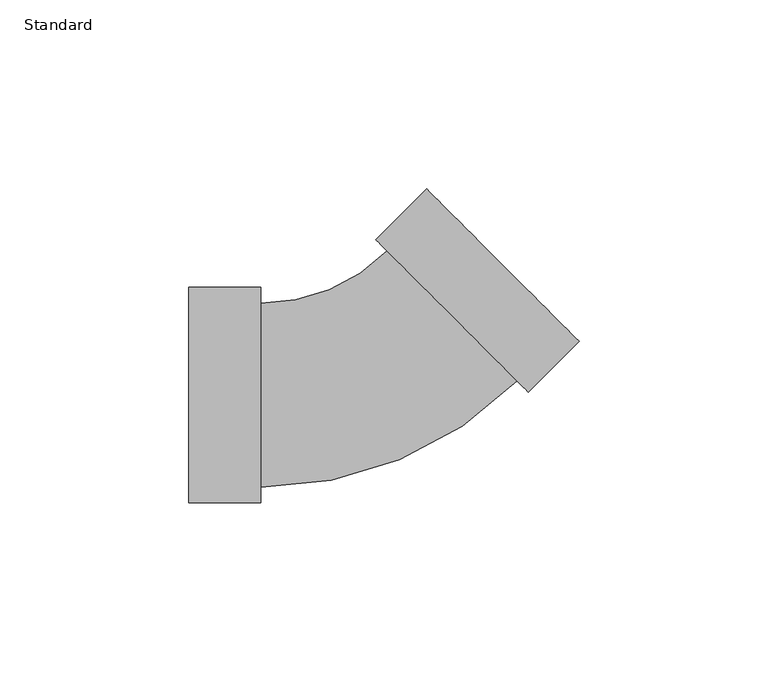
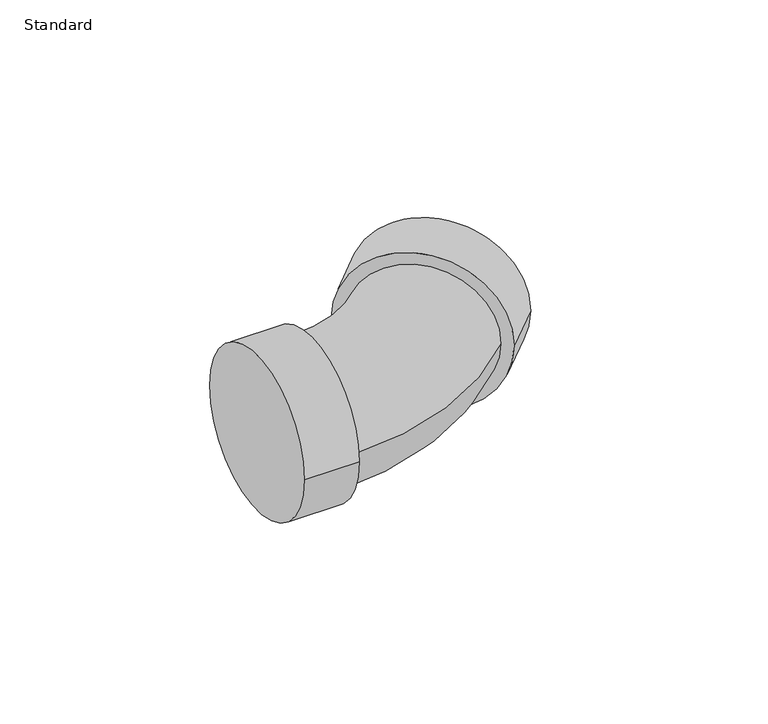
"""IFC4 building model written with IfcOpenShell, lengths in millimetres: pipe fitting geometry, Elbow_45_90-Lubrizol-CPVC-FlowGuard_MX : Standard."""

from ifc_helpers import new_model, si_unit, point, frame, origin, place, context, project, spatial, circle_curve, ellipse_curve, trimmed, source, transform, mapped, element, save
from ifc_brep_helpers import plane_surface, cylinder_surface, revolved_surface, advanced_brep


def standard_5be4a8bd(model_context):
    return source(origin(), model_context, "Body", "AdvancedBrep", [
        advanced_brep(
        [(-48.6521875, -28.5071094, 0.0), (-48.6521875, 28.5071094, 0.0), (-29.6521875, -28.5071094, 0.0), (-29.6521875, 28.5071094, 0.0), (-29.6521875, -24.3240625, 0.0), (-29.6521875, 24.3240625, 0.0), (3.7675533, 38.1669724, 0.0), (38.1669724, 3.7675533, 0.0), (41.1248332, 0.8096925, 0.0), (0.8096925, 41.1248332, 0.0), (54.5598621, 14.2447213, 0.0), (14.2447213, 54.5598621, 0.0)],
        [
            (0, 1, circle_curve(frame((-48.6521875, 0.0, 0.0), z_axis=(-1.0, 0.0, 0.0), x_axis=(0.0, 1.0, 0.0)), 28.5071094)),
            (1, 0, circle_curve(frame((-48.6521875, 0.0, 0.0), z_axis=(-1.0, 0.0, 0.0), x_axis=(0.0, 1.0, 0.0)), 28.5071094)),
            (2, 3, circle_curve(frame((-29.6521875, 0.0, 0.0), z_axis=(1.0, 0.0, 0.0), x_axis=(0.0, 1.0, 0.0)), 28.5071094)),
            (3, 2, circle_curve(frame((-29.6521875, 0.0, 0.0), z_axis=(1.0, 0.0, 0.0), x_axis=(0.0, 1.0, 0.0)), 28.5071094)),
            (4, 5, circle_curve(frame((-29.6521875, 0.0, 0.0), z_axis=(-1.0, 0.0, 0.0), x_axis=(0.0, 1.0, 0.0)), 24.3240625)),
            (5, 4, circle_curve(frame((-29.6521875, 0.0, 0.0), z_axis=(-1.0, 0.0, 0.0), x_axis=(0.0, 1.0, 0.0)), 24.3240625)),
            (0, 2),
            (3, 1),
            (6, 5, circle_curve(frame((-29.6521875, 71.5867132, 0.0), z_axis=(0.0, 0.0, -1.0), x_axis=(0.0, -1.0, 0.0)), 47.2626507)),
            (4, 7, circle_curve(frame((-29.6521875, 71.5867132, 0.0), z_axis=(0.0, 0.0, 1.0), x_axis=(0.0, -1.0, 0.0)), 95.9107757)),
            (7, 6, circle_curve(frame((20.9672629, 20.9672629, 0.0), z_axis=(-0.7071067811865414, -0.7071067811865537, 0.0), x_axis=(-0.7071067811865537, 0.7071067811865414, 0.0)), 24.3240625)),
            (6, 7, circle_curve(frame((20.9672629, 20.9672629, 0.0), z_axis=(-0.7071067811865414, -0.7071067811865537, 0.0), x_axis=(-0.7071067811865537, 0.7071067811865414, 0.0)), 24.3240625)),
            (8, 9, circle_curve(frame((20.9672629, 20.9672629, 0.0), z_axis=(-0.7071067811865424, -0.7071067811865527, 0.0), x_axis=(-0.7071067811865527, 0.7071067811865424, 0.0)), 28.5071094)),
            (9, 8, circle_curve(frame((20.9672629, 20.9672629, 0.0), z_axis=(-0.7071067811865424, -0.7071067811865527, 0.0), x_axis=(-0.7071067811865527, 0.7071067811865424, 0.0)), 28.5071094)),
            (10, 11, circle_curve(frame((34.4022917, 34.4022917, 0.0), z_axis=(0.7071067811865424, 0.7071067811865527, 0.0), x_axis=(-0.7071067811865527, 0.7071067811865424, 0.0)), 28.5071094)),
            (11, 10, circle_curve(frame((34.4022917, 34.4022917, 0.0), z_axis=(0.7071067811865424, 0.7071067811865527, 0.0), x_axis=(-0.7071067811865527, 0.7071067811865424, 0.0)), 28.5071094)),
            (8, 10),
            (11, 9),
        ],
        [
            plane_surface(frame((-48.6521875, 0.0, 0.0), z_axis=(-1.0, 0.0, 0.0), x_axis=(0.0, 0.0, 1.0))),
            plane_surface(frame((-29.6521875, 0.0, 0.0), z_axis=(1.0, 0.0, 0.0), x_axis=(0.0, 0.0, 1.0))),
            cylinder_surface(frame((-48.6521875, 0.0, 0.0), z_axis=(-1.0, 0.0, 0.0), x_axis=(0.0, 1.0, 0.0)), 28.5071094),
            revolved_surface(trimmed(ellipse_curve(frame((-29.6521875, 0.0, 0.0), z_axis=(-1.0, 0.0, 0.0), x_axis=(0.0, 1.0, 0.0)), 24.3240625, 24.3240625), [point((-29.6521875, -24.3240625, 0.0))], [point((-29.6521875, 24.3240625, 0.0))], True, "CARTESIAN"), (-29.6521875, 71.5867132, 0.0), (0.0, 0.0, 1.0)),
            revolved_surface(trimmed(ellipse_curve(frame((-29.6521875, 0.0, 0.0), z_axis=(-1.0, 0.0, 0.0), x_axis=(0.0, 1.0, 0.0)), 24.3240625, 24.3240625), [point((-29.6521875, 24.3240625, 0.0))], [point((-29.6521875, -24.3240625, 0.0))], True, "CARTESIAN"), (-29.6521875, 71.5867132, 0.0), (0.0, 0.0, 1.0)),
            plane_surface(frame((20.9672629, 20.9672629, 0.0), z_axis=(-0.7071067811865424, -0.7071067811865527, 0.0), x_axis=(0.0, 0.0, 1.0))),
            plane_surface(frame((34.4022917, 34.4022917, 0.0), z_axis=(0.7071067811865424, 0.7071067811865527, 0.0), x_axis=(0.0, 0.0, 1.0))),
            cylinder_surface(frame((20.9672629, 20.9672629, 0.0), z_axis=(-0.7071067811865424, -0.7071067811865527, 0.0), x_axis=(-0.7071067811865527, 0.7071067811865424, 0.0)), 28.5071094),
        ],
        [
            (0, [[1, 2]]),
            (1, [[3, 4], [5, 6]]),
            (2, [[-1, 7, -4, 8]]),
            (2, [[-2, -8, -3, -7]]),
            (3, [[9, -5, 10, 11]]),
            (4, [[-9, 12, -10, -6]]),
            (5, [[13, 14], [-11, -12]]),
            (6, [[15, 16]]),
            (7, [[-13, 17, -16, 18]]),
            (7, [[-14, -18, -15, -17]]),
        ],
    ),
    ])


if __name__ == "__main__":
    model = new_model("IFC4")
    model_context = context("Model", 3, world=origin())
    ifc_project = project(units=[si_unit("LENGTHUNIT", "METRE", prefix="MILLI")], contexts=[model_context])
    site = spatial("IfcSite", under=ifc_project)
    building = spatial("IfcBuilding", under=site)
    placement = place(None, origin())
    standard_shape = standard_5be4a8bd(model_context)
    element("IfcPipeFitting", 1, ObjectType="Elbow_45_90-Lubrizol-CPVC-FlowGuard_MX : Standard", at=placement, inside=building, context=model_context, shape_type="MappedRepresentation", body=[
        mapped(standard_shape, transform((0.0, 0.0, 0.0), x_axis=(1.0, 0.0, 0.0), y_axis=(0.0, 1.0, 0.0), z_axis=(0.0, 0.0, 1.0))),
    ])
    save(model, "model.ifc")
